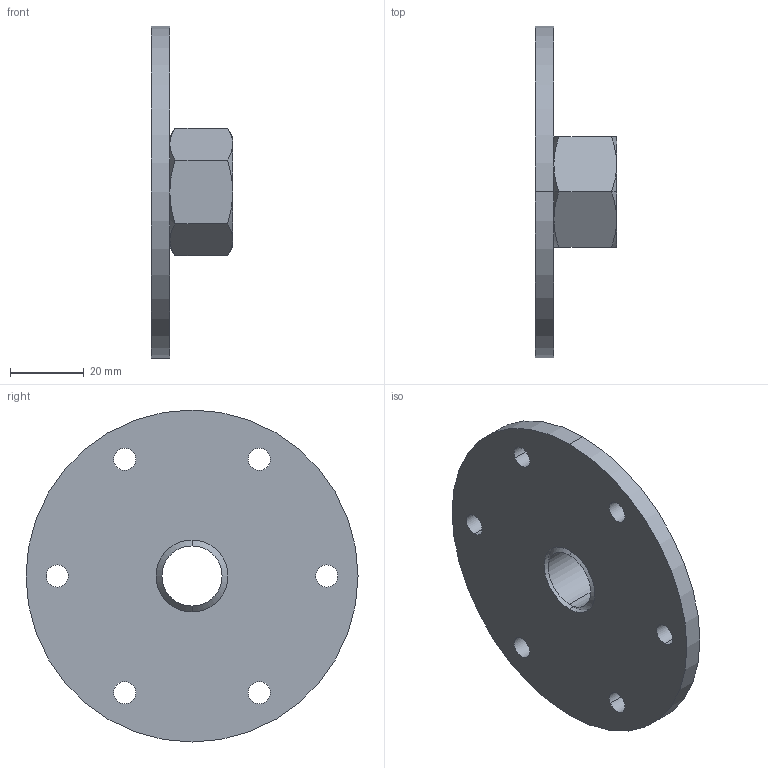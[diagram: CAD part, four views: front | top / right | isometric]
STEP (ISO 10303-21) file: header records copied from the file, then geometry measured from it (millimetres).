
FILE_DESCRIPTION(('starvars output'),'2;1');
FILE_NAME('E43001_3.stp','15:57:08 2007/04/16',( 'Thomas Industrial Network Germany GmbH'),( 'Thomas Industrial Network Germany GmbH'),'unknown preprocess','ACIS' ,'unknown authorization');
FILE_SCHEMA(('CONFIG_CONTROL_DESIGN {UNKNOWN IMPLEMENTATION LEVEL}'));
Length unit declared in the file: millimetre
Products named in the file (1): PRODUCT_ID_40
Bounding box: 22 x 90 x 90 mm (x, y, z)
Volume: 38394.5 mm3; surface area: 17165.4 mm2
Topology: 1 solids, 1 shells, 48 faces, 112 edges, 68 vertices
Faces by surface type: cylinder 20, cone 18, plane 10
Entity records: 1191 total; most frequent: ORIENTED_EDGE 224, CARTESIAN_POINT 222, DIRECTION 132, EDGE_CURVE 112, VERTEX_POINT 68, EDGE_LOOP 64, FACE_BOUND 64, AXIS2_PLACEMENT_3D 50
